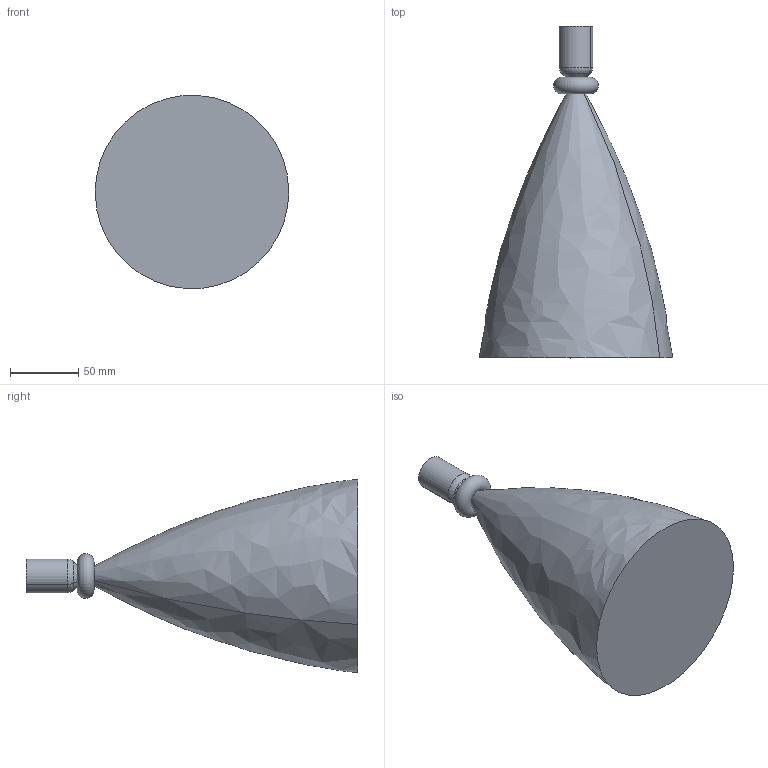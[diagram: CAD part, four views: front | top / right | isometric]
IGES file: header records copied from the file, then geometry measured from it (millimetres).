
Start section: Data from Parasolid IGES Translator 17.0.34, Copyright(c) 2006 Siemens P LM Software. All Rights Reserved.
Global section: file name: Nozzle_example.igs; native system: By Siemens PLM Incorporated; preprocessor: XPlus GENERIC/IGES 17.0.34; author: Noname; organization: Noname; date: 20201228.095057; units: metre
Bounding box: 142.08 x 243.59 x 141.83 mm (x, y, z)
Volume: 1555168.3 mm3; surface area: 84022.1 mm2
Topology: 1 solids, 1 shells, 14 faces, 34 edges, 18 vertices
Faces by surface type: torus 6, plane 2, bspline 2, cone 2, cylinder 2
